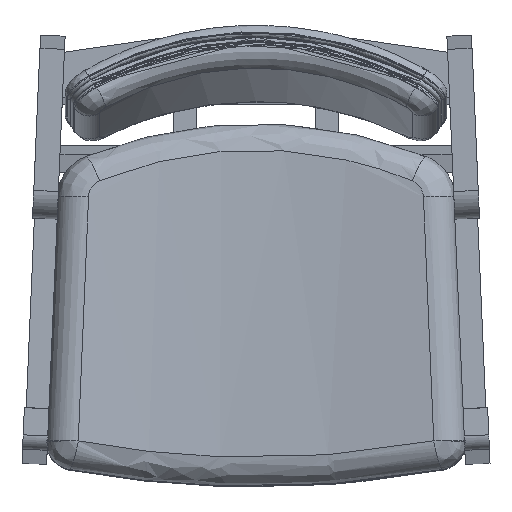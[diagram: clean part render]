
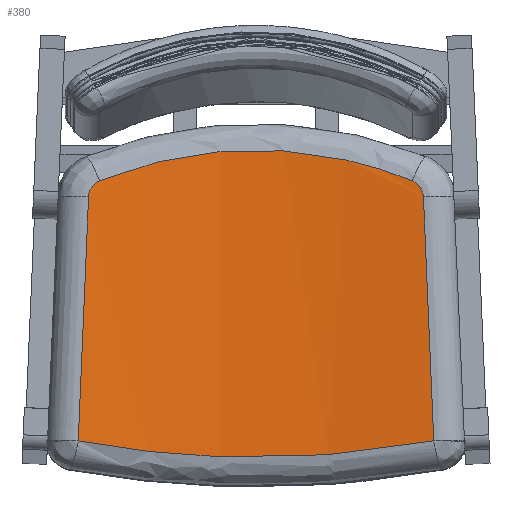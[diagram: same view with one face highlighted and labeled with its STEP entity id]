
A CAD part, top view. The second image highlights one B-rep face of the part: STEP entity #380.
In plain terms, the highlighted free-form (B-spline) face has degree [1, 2] with [2, 3] control points.
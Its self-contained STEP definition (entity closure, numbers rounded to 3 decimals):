
#380=ADVANCED_FACE('',(#693),#4813,.T.);
#693=FACE_OUTER_BOUND('',#1042,.T.);
#1042=EDGE_LOOP('',(#2594,#2595,#2596,#2597,#2598,#2599));
#2594=ORIENTED_EDGE('',*,*,#3377,.F.);
#2595=ORIENTED_EDGE('',*,*,#3379,.F.);
#2596=ORIENTED_EDGE('',*,*,#3383,.F.);
#2597=ORIENTED_EDGE('',*,*,#3375,.F.);
#2598=ORIENTED_EDGE('',*,*,#3372,.F.);
#2599=ORIENTED_EDGE('',*,*,#3385,.F.);
#3372=EDGE_CURVE('',#4666,#4667,#3569,.T.);
#3375=EDGE_CURVE('',#4667,#4668,#4180,.T.);
#3377=EDGE_CURVE('',#4670,#4671,#3572,.T.);
#3379=EDGE_CURVE('',#4674,#4670,#4182,.T.);
#3383=EDGE_CURVE('',#4668,#4674,#4184,.T.);
#3385=EDGE_CURVE('',#4671,#4666,#4186,.T.);
#3569=(
BOUNDED_CURVE()
B_SPLINE_CURVE(2,(#39259,#39260,#39261),.UNSPECIFIED.,.F.,.F.)
B_SPLINE_CURVE_WITH_KNOTS((3,3),(0.,266.12),.UNSPECIFIED.)
CURVE()
GEOMETRIC_REPRESENTATION_ITEM()
RATIONAL_B_SPLINE_CURVE((1.,1.,1.))
REPRESENTATION_ITEM('')
);
#3572=(
BOUNDED_CURVE()
B_SPLINE_CURVE(2,(#39292,#39293,#39294),.UNSPECIFIED.,.F.,.F.)
B_SPLINE_CURVE_WITH_KNOTS((3,3),(0.,266.12),.UNSPECIFIED.)
CURVE()
GEOMETRIC_REPRESENTATION_ITEM()
RATIONAL_B_SPLINE_CURVE((1.,1.,1.))
REPRESENTATION_ITEM('')
);
#4180=B_SPLINE_CURVE_WITH_KNOTS('',3,(#39277,#39278,#39279,#39280,#39281,
#39282,#39283,#39284,#39285,#39286),.UNSPECIFIED.,.F.,.F.,(4,1,1,1,1,1,
1,4),(0.,3.26,6.52,9.779,13.039,
16.299,19.559,22.819),.UNSPECIFIED.);
#4182=B_SPLINE_CURVE_WITH_KNOTS('',3,(#39305,#39306,#39307,#39308,#39309,
#39310,#39311,#39312,#39313,#39314),.UNSPECIFIED.,.F.,.F.,(4,1,1,1,1,1,
1,4),(0.,3.26,6.52,9.779,13.039,
16.299,19.559,22.819),.UNSPECIFIED.);
#4184=B_SPLINE_CURVE_WITH_KNOTS('',3,(#39335,#39336,#39337,#39338,#39339,
#39340,#39341,#39342,#39343,#39344),.UNSPECIFIED.,.F.,.F.,(4,1,1,1,1,1,
1,4),(0.,50.563,101.125,151.688,202.25,
252.813,303.376,353.938),.UNSPECIFIED.);
#4186=B_SPLINE_CURVE_WITH_KNOTS('',3,(#39355,#39356,#39357,#39358,#39359,
#39360,#39361,#39362,#39363,#39364),.UNSPECIFIED.,.F.,.F.,(4,1,1,1,1,1,
1,4),(0.,56.317,112.634,168.951,225.267,
281.584,337.901,394.218),.UNSPECIFIED.);
#4666=VERTEX_POINT('',#39075);
#4667=VERTEX_POINT('',#39076);
#4668=VERTEX_POINT('',#39077);
#4670=VERTEX_POINT('',#39079);
#4671=VERTEX_POINT('',#39080);
#4674=VERTEX_POINT('',#39083);
#4813=(
BOUNDED_SURFACE()
B_SPLINE_SURFACE(1,2,((#39011,#39012,#39013),(#39014,#39015,#39016)),
 .UNSPECIFIED.,.F.,.F.,.F.)
B_SPLINE_SURFACE_WITH_KNOTS((2,2),(3,3),(0.,335.332),(0.,
395.824),.UNSPECIFIED.)
GEOMETRIC_REPRESENTATION_ITEM()
RATIONAL_B_SPLINE_SURFACE(((1.,0.986,1.),(1.,0.986,1.)))
REPRESENTATION_ITEM('')
SURFACE()
);
#39011=CARTESIAN_POINT('',(-195.05,344.673,707.972));
#39012=CARTESIAN_POINT('',(0.,342.98,675.93));
#39013=CARTESIAN_POINT('',(195.05,344.673,707.972));
#39014=CARTESIAN_POINT('',(-195.05,6.877,725.522));
#39015=CARTESIAN_POINT('',(0.,5.183,693.48));
#39016=CARTESIAN_POINT('',(195.05,6.877,725.522));
#39075=CARTESIAN_POINT('',(-195.05,24.507,724.606));
#39076=CARTESIAN_POINT('',(-183.736,292.238,708.888));
#39077=CARTESIAN_POINT('',(-171.563,309.944,706.146));
#39079=CARTESIAN_POINT('',(183.736,292.238,708.888));
#39080=CARTESIAN_POINT('',(195.05,24.507,724.606));
#39083=CARTESIAN_POINT('',(171.563,309.944,706.146));
#39259=CARTESIAN_POINT('',(-195.05,24.507,724.606));
#39260=CARTESIAN_POINT('',(-189.398,158.26,716.726));
#39261=CARTESIAN_POINT('',(-183.736,292.238,708.888));
#39277=CARTESIAN_POINT('',(-183.736,292.238,708.888));
#39278=CARTESIAN_POINT('',(-183.69,293.339,708.824));
#39279=CARTESIAN_POINT('',(-183.422,295.53,708.668));
#39280=CARTESIAN_POINT('',(-182.506,298.697,708.362));
#39281=CARTESIAN_POINT('',(-181.104,301.659,707.993));
#39282=CARTESIAN_POINT('',(-179.256,304.338,707.573));
#39283=CARTESIAN_POINT('',(-177.013,306.663,707.116));
#39284=CARTESIAN_POINT('',(-174.436,308.575,706.635));
#39285=CARTESIAN_POINT('',(-172.542,309.543,706.309));
#39286=CARTESIAN_POINT('',(-171.563,309.944,706.146));
#39292=CARTESIAN_POINT('',(183.736,292.238,708.888));
#39293=CARTESIAN_POINT('',(189.398,158.26,716.726));
#39294=CARTESIAN_POINT('',(195.05,24.507,724.606));
#39305=CARTESIAN_POINT('',(171.563,309.944,706.146));
#39306=CARTESIAN_POINT('',(172.542,309.543,706.309));
#39307=CARTESIAN_POINT('',(174.436,308.575,706.635));
#39308=CARTESIAN_POINT('',(177.013,306.663,707.116));
#39309=CARTESIAN_POINT('',(179.255,304.338,707.573));
#39310=CARTESIAN_POINT('',(181.104,301.659,707.993));
#39311=CARTESIAN_POINT('',(182.506,298.697,708.362));
#39312=CARTESIAN_POINT('',(183.422,295.529,708.668));
#39313=CARTESIAN_POINT('',(183.69,293.339,708.824));
#39314=CARTESIAN_POINT('',(183.736,292.238,708.888));
#39335=CARTESIAN_POINT('',(-171.563,309.944,706.146));
#39336=CARTESIAN_POINT('',(-156.131,316.27,703.589));
#39337=CARTESIAN_POINT('',(-124.52,327.236,699.071));
#39338=CARTESIAN_POINT('',(-75.405,338.372,694.375));
#39339=CARTESIAN_POINT('',(-25.246,343.992,691.971));
#39340=CARTESIAN_POINT('',(25.258,343.991,691.972));
#39341=CARTESIAN_POINT('',(75.41,338.371,694.375));
#39342=CARTESIAN_POINT('',(124.516,327.237,699.071));
#39343=CARTESIAN_POINT('',(156.131,316.27,703.589));
#39344=CARTESIAN_POINT('',(171.563,309.944,706.146));
#39355=CARTESIAN_POINT('',(195.05,24.507,724.606));
#39356=CARTESIAN_POINT('',(176.828,21.079,721.782));
#39357=CARTESIAN_POINT('',(140.091,15.158,716.905));
#39358=CARTESIAN_POINT('',(84.323,9.178,711.979));
#39359=CARTESIAN_POINT('',(28.152,6.17,709.501));
#39360=CARTESIAN_POINT('',(-28.154,6.17,709.501));
#39361=CARTESIAN_POINT('',(-84.323,9.178,711.979));
#39362=CARTESIAN_POINT('',(-140.09,15.158,716.905));
#39363=CARTESIAN_POINT('',(-176.828,21.079,721.782));
#39364=CARTESIAN_POINT('',(-195.05,24.507,724.606));
